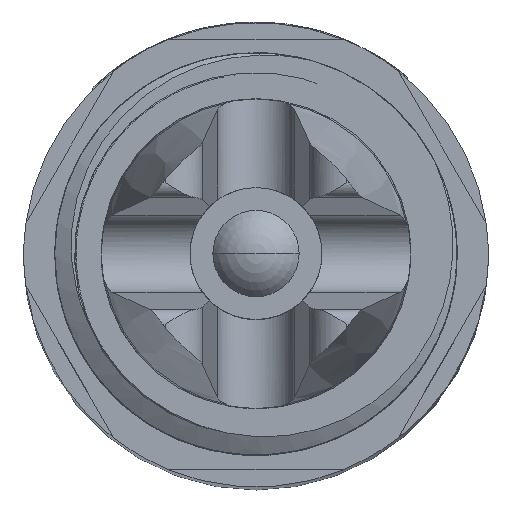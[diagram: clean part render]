
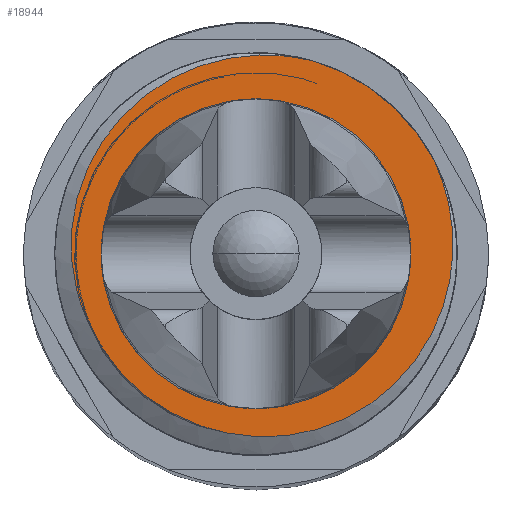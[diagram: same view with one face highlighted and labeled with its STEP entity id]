
A CAD part, top view. The second image highlights one B-rep face of the part: STEP entity #18944.
In plain terms, the highlighted planar face has unit normal (0, 0, 1).
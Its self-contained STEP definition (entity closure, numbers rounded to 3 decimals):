
#17427=CARTESIAN_POINT('',(-10.919,-4.252,15.));
#17428=CARTESIAN_POINT('',(-10.909,-4.274,15.));
#17429=CARTESIAN_POINT('',(-10.889,-4.319,15.));
#17430=CARTESIAN_POINT('',(-10.856,-4.391,15.));
#17431=CARTESIAN_POINT('',(-10.821,-4.468,15.));
#17432=CARTESIAN_POINT('',(-10.782,-4.55,15.));
#17433=CARTESIAN_POINT('',(-10.741,-4.638,15.));
#17434=CARTESIAN_POINT('',(-10.695,-4.732,15.));
#17435=CARTESIAN_POINT('',(-10.647,-4.832,15.));
#17436=CARTESIAN_POINT('',(-10.593,-4.938,15.));
#17437=CARTESIAN_POINT('',(-10.535,-5.052,15.));
#17438=CARTESIAN_POINT('',(-10.471,-5.173,15.));
#17439=CARTESIAN_POINT('',(-10.401,-5.303,15.));
#17440=CARTESIAN_POINT('',(-10.325,-5.443,15.));
#17441=CARTESIAN_POINT('',(-10.24,-5.591,15.));
#17442=CARTESIAN_POINT('',(-10.147,-5.75,15.));
#17443=CARTESIAN_POINT('',(-10.044,-5.919,15.));
#17444=CARTESIAN_POINT('',(-9.931,-6.099,15.));
#17445=CARTESIAN_POINT('',(-9.806,-6.29,15.));
#17446=CARTESIAN_POINT('',(-9.669,-6.492,15.));
#17447=CARTESIAN_POINT('',(-9.517,-6.706,15.));
#17448=CARTESIAN_POINT('',(-9.347,-6.934,15.));
#17449=CARTESIAN_POINT('',(-9.156,-7.178,15.));
#17450=CARTESIAN_POINT('',(-8.941,-7.439,15.));
#17451=CARTESIAN_POINT('',(-8.699,-7.716,15.));
#17452=CARTESIAN_POINT('',(-8.425,-8.01,15.));
#17453=CARTESIAN_POINT('',(-8.115,-8.321,15.));
#17454=CARTESIAN_POINT('',(-7.766,-8.647,15.));
#17455=CARTESIAN_POINT('',(-7.372,-8.984,15.));
#17456=CARTESIAN_POINT('',(-6.949,-9.315,15.));
#17457=CARTESIAN_POINT('',(-6.516,-9.625,15.));
#17458=CARTESIAN_POINT('',(-6.091,-9.902,15.));
#17459=CARTESIAN_POINT('',(-5.689,-10.142,15.));
#17460=CARTESIAN_POINT('',(-5.312,-10.349,15.));
#17461=CARTESIAN_POINT('',(-4.965,-10.524,15.));
#17462=CARTESIAN_POINT('',(-4.651,-10.671,15.));
#17463=CARTESIAN_POINT('',(-4.367,-10.795,15.));
#17464=CARTESIAN_POINT('',(-4.109,-10.901,15.));
#17465=CARTESIAN_POINT('',(-3.875,-10.991,15.));
#17466=CARTESIAN_POINT('',(-3.66,-11.069,15.));
#17467=CARTESIAN_POINT('',(-3.461,-11.138,15.));
#17468=CARTESIAN_POINT('',(-3.278,-11.198,15.));
#17469=CARTESIAN_POINT('',(-3.11,-11.25,15.));
#17470=CARTESIAN_POINT('',(-2.955,-11.296,15.));
#17471=CARTESIAN_POINT('',(-2.813,-11.337,15.));
#17472=CARTESIAN_POINT('',(-2.682,-11.373,15.));
#17473=CARTESIAN_POINT('',(-2.561,-11.404,15.));
#17474=CARTESIAN_POINT('',(-2.449,-11.433,15.));
#17475=CARTESIAN_POINT('',(-2.344,-11.459,15.));
#17476=CARTESIAN_POINT('',(-2.246,-11.482,15.));
#17477=CARTESIAN_POINT('',(-2.154,-11.504,15.));
#17478=CARTESIAN_POINT('',(-2.068,-11.523,15.));
#17479=CARTESIAN_POINT('',(-1.988,-11.541,15.));
#17480=CARTESIAN_POINT('',(-1.913,-11.557,15.));
#17481=CARTESIAN_POINT('',(-1.866,-11.567,15.));
#17482=CARTESIAN_POINT('',(-1.844,-11.572,15.));
#17484=CARTESIAN_POINT('',(3.64,12.48,15.));
#17485=CARTESIAN_POINT('',(3.077,12.618,15.));
#17486=CARTESIAN_POINT('',(1.888,12.828,15.));
#17487=CARTESIAN_POINT('',(-0.078,12.889,15.));
#17488=CARTESIAN_POINT('',(-2.31,12.599,15.));
#17489=CARTESIAN_POINT('',(-4.738,11.792,15.));
#17490=CARTESIAN_POINT('',(-7.056,10.431,15.));
#17491=CARTESIAN_POINT('',(-9.097,8.531,15.));
#17492=CARTESIAN_POINT('',(-10.66,6.216,15.));
#17493=CARTESIAN_POINT('',(-11.652,3.645,15.));
#17494=CARTESIAN_POINT('',(-12.041,0.948,15.));
#17495=CARTESIAN_POINT('',(-11.819,-1.739,15.));
#17496=CARTESIAN_POINT('',(-11.287,-3.428,15.));
#17497=CARTESIAN_POINT('',(-10.919,-4.252,15.));
#17499=CARTESIAN_POINT('',(0.,0.,15.));
#17500=DIRECTION('',(0.,0.,1.));
#17501=DIRECTION('',(0.884,0.468,0.));
#17502=AXIS2_PLACEMENT_3D('',#17499,#17500,#17501);
#17504=CARTESIAN_POINT('',(-1.844,-11.572,15.));
#17505=CARTESIAN_POINT('',(-1.427,-11.659,15.));
#17506=CARTESIAN_POINT('',(-0.596,-11.786,
15.));
#17507=CARTESIAN_POINT('',(0.639,-11.843,
15.));
#17508=CARTESIAN_POINT('',(1.865,-11.774,
15.));
#17509=CARTESIAN_POINT('',(3.155,-11.566,
15.));
#17510=CARTESIAN_POINT('',(4.556,-11.171,
15.));
#17511=CARTESIAN_POINT('',(6.083,-10.523,
15.));
#17512=CARTESIAN_POINT('',(7.752,-9.501,
15.));
#17513=CARTESIAN_POINT('',(9.374,-8.07,
15.));
#17514=CARTESIAN_POINT('',(10.713,-6.371,
15.));
#17515=CARTESIAN_POINT('',(11.688,-4.577,
15.));
#17516=CARTESIAN_POINT('',(12.342,-2.717,
15.));
#17517=CARTESIAN_POINT('',(12.689,-0.867,
15.));
#17518=CARTESIAN_POINT('',(12.763,0.933,
15.));
#17519=CARTESIAN_POINT('',(12.589,2.706,15.));
#17520=CARTESIAN_POINT('',(12.174,4.425,15.001));
#17521=CARTESIAN_POINT('',(11.745,5.538,14.998));
#17522=CARTESIAN_POINT('',(11.486,6.084,14.998));
#18030=VERTEX_POINT('',#17427);
#18031=VERTEX_POINT('',#17482);
#18032=VERTEX_POINT('',#17522);
#18033=VERTEX_POINT('',#17484);
#18930=CARTESIAN_POINT('',(0.,0.,15.));
#18931=DIRECTION('',(0.,0.,1.));
#18932=DIRECTION('',(1.,0.,0.));
#18933=AXIS2_PLACEMENT_3D('',#18930,#18931,#18932);
#18934=PLANE('',#18933);
#18936=ORIENTED_EDGE('',*,*,#18935,.F.);
#18938=ORIENTED_EDGE('',*,*,#18937,.F.);
#18940=ORIENTED_EDGE('',*,*,#18939,.F.);
#18941=ORIENTED_EDGE('',*,*,#18910,.F.);
#18942=EDGE_LOOP('',(#18936,#18938,#18940,#18941));
#18943=FACE_OUTER_BOUND('',#18942,.F.);
#18944=ADVANCED_FACE('',(#18943),#18934,.T.);
#17483=B_SPLINE_CURVE_WITH_KNOTS('',3,(#17427,#17428,#17429,#17430,#17431,
#17432,#17433,#17434,#17435,#17436,#17437,#17438,#17439,#17440,#17441,#17442,
#17443,#17444,#17445,#17446,#17447,#17448,#17449,#17450,#17451,#17452,#17453,
#17454,#17455,#17456,#17457,#17458,#17459,#17460,#17461,#17462,#17463,#17464,
#17465,#17466,#17467,#17468,#17469,#17470,#17471,#17472,#17473,#17474,#17475,
#17476,#17477,#17478,#17479,#17480,#17481,#17482),.UNSPECIFIED.,.F.,.F.,(4,1,1,
1,1,1,1,1,1,1,1,1,1,1,1,1,1,1,1,1,1,1,1,1,1,1,1,1,1,1,1,1,1,1,1,1,1,1,1,1,1,1,1,
1,1,1,1,1,1,1,1,1,1,4),(0.,0.019,0.038,
0.057,0.075,0.094,0.113,
0.132,0.151,0.17,0.189,
0.208,0.226,0.245,0.264,
0.283,0.302,0.321,0.34,
0.358,0.377,0.396,0.415,
0.434,0.453,0.472,0.491,
0.509,0.528,0.547,0.566,
0.585,0.604,0.623,0.642,
0.66,0.679,0.698,0.717,
0.736,0.755,0.774,0.792,
0.811,0.83,0.849,0.868,
0.887,0.906,0.925,0.943,
0.962,0.981,1.),.UNSPECIFIED.);
#17498=B_SPLINE_CURVE_WITH_KNOTS('',3,(#17484,#17485,#17486,#17487,#17488,
#17489,#17490,#17491,#17492,#17493,#17494,#17495,#17496,#17497),.UNSPECIFIED.,
.F.,.F.,(4,1,1,1,1,1,1,1,1,1,1,4),(0.,0.091,0.182,
0.273,0.364,0.455,0.545,
0.636,0.727,0.818,0.909,1.),
.UNSPECIFIED.);
#17503=CIRCLE('',#17502,13.);
#17523=B_SPLINE_CURVE_WITH_KNOTS('',3,(#17504,#17505,#17506,#17507,#17508,
#17509,#17510,#17511,#17512,#17513,#17514,#17515,#17516,#17517,#17518,#17519,
#17520,#17521,#17522),.UNSPECIFIED.,.F.,.F.,(4,1,1,1,1,1,1,1,1,1,1,1,1,1,1,1,4),
(0.,0.063,0.125,0.188,0.25,0.313,0.375,0.438,0.5,0.563,
0.625,0.688,0.75,0.813,0.875,0.938,1.),.UNSPECIFIED.);
#18910=EDGE_CURVE('',#18031,#18032,#17523,.T.);
#18935=EDGE_CURVE('',#18030,#18031,#17483,.T.);
#18937=EDGE_CURVE('',#18033,#18030,#17498,.T.);
#18939=EDGE_CURVE('',#18032,#18033,#17503,.T.);
